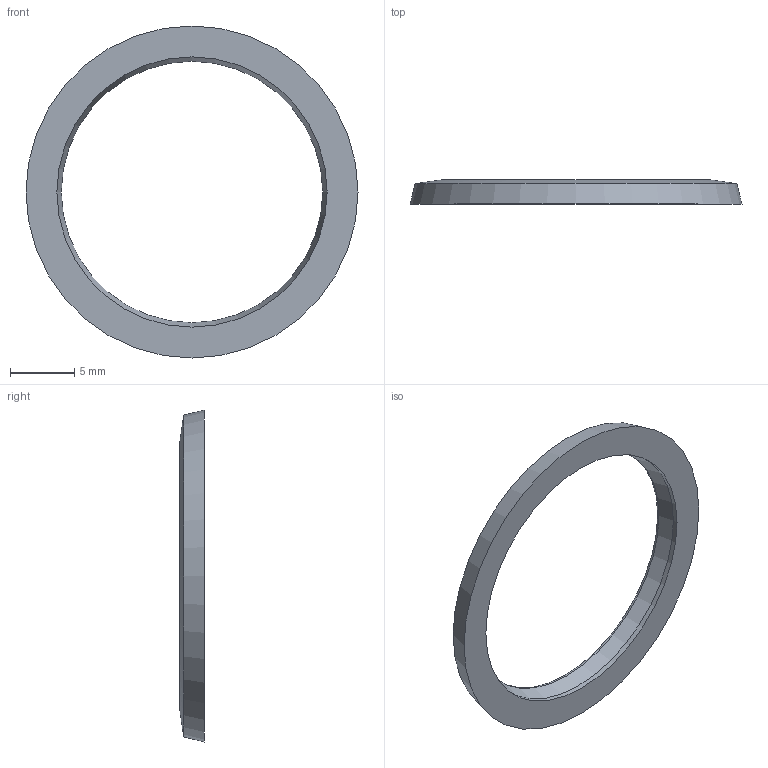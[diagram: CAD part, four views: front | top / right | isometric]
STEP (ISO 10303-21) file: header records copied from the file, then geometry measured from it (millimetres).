
FILE_DESCRIPTION( ( 'STEP AP203' ), '1' );
FILE_NAME( 'C:/Temp/Ganter_Step_05_03_2020/data/3_5/gn7600/Sealing ring GN 7600-25-21-2-HNBR-85.stp', '2020-03-12T13:43:52', ( 'License CC BY-ND 4.0' ), ( 'CADENAS' ), ' ', 'PARTsolutions', ' ' );
FILE_SCHEMA( ( 'CONFIG_CONTROL_DESIGN' ) );
Length unit declared in the file: millimetre
Products named in the file (1): _Sealing ring GN 7600-25-21-2-HNBR-85
Bounding box: 25.8 x 1.9 x 25.8 mm (x, y, z)
Volume: 295 mm3; surface area: 597.1 mm2
Topology: 1 solids, 1 shells, 6 faces, 11 edges, 6 vertices
Faces by surface type: cone 3, torus 1, cylinder 1, plane 1
Full cylindrical faces by diameter (mm): 21 x1
Entity records: 172 total; most frequent: DIRECTION 26, CARTESIAN_POINT 19, AXIS2_PLACEMENT_3D 13, EDGE_LOOP 12, ORIENTED_EDGE 12, FACE_OUTER_BOUND 8, ADVANCED_FACE 6, EDGE_CURVE 6
